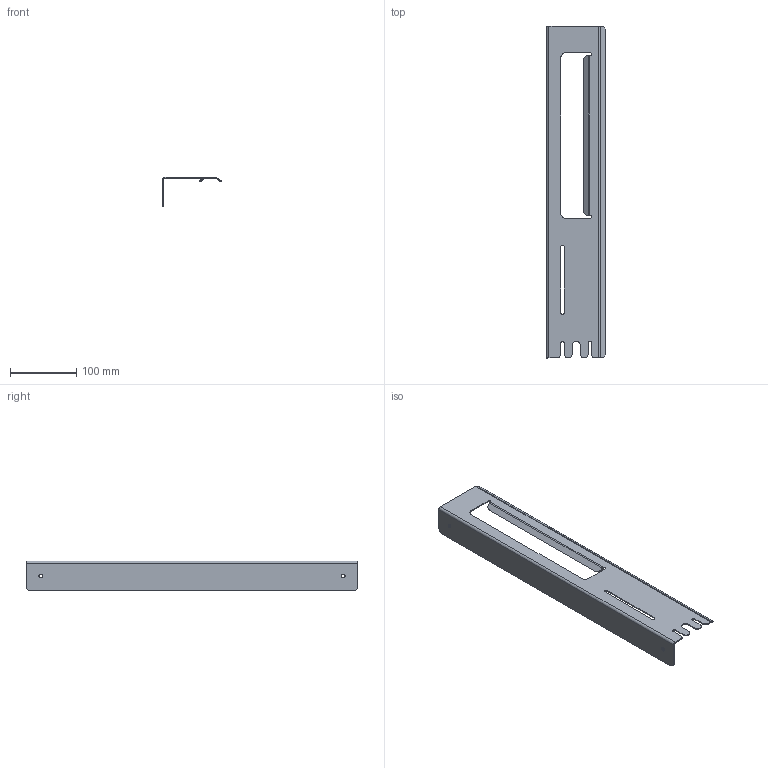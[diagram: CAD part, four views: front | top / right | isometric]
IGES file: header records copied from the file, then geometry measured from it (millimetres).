
Start section: IGES file generated by C3D Converter 1.5 translator by C3D Labs., translator version IGESOUT-5.1.
Global section: file name: D:\×åðòåæè èçäåëèé Âàííà 2023\Ïîëêè Simple Íîâûå\3D\×åðòåæè 22.07.2023\3D\S²MPLE_2_500_P250_KR_LEFT.igs; preprocessor: 1.0; author: a.kalenyk83@gmail.com; organization: unknown; date: -17770622:111644; units: millimetre
Bounding box: 88.5 x 500 x 45 mm (x, y, z)
Volume: 84979.9 mm3; surface area: 116652 mm2
Topology: 1 solids, 1 shells, 66 faces, 168 edges, 104 vertices
Faces by surface type: bspline 37, revolution 29
